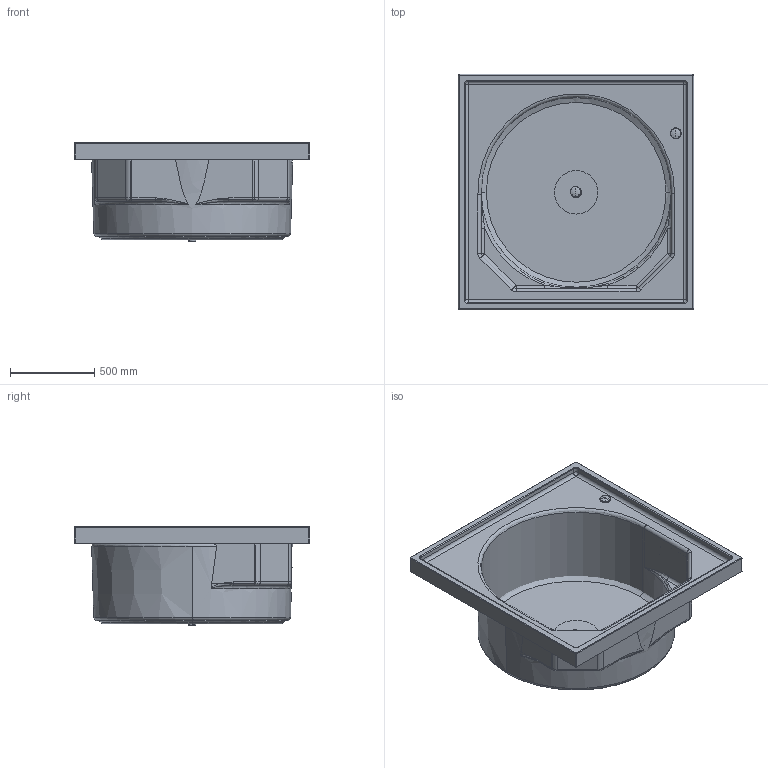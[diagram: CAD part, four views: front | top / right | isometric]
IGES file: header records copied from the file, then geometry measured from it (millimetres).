
Global section: file name: No Iges File Name specified; native system: Autodesk Inventor 2009; preprocessor: AutoDesk Inventor Iges Exporter R2009; author: Andreas; date: 20090219.160423; units: millimetre
Bounding box: 1400 x 1400 x 589.4 mm (x, y, z)
Volume: 76577870.7 mm3; surface area: 14866828.1 mm2
Topology: 6 solids, 6 shells, 253 faces, 612 edges, 367 vertices
Faces by surface type: plane 82, cylinder 59, revolution 47, torus 28, bspline 27, cone 6, sphere 4
